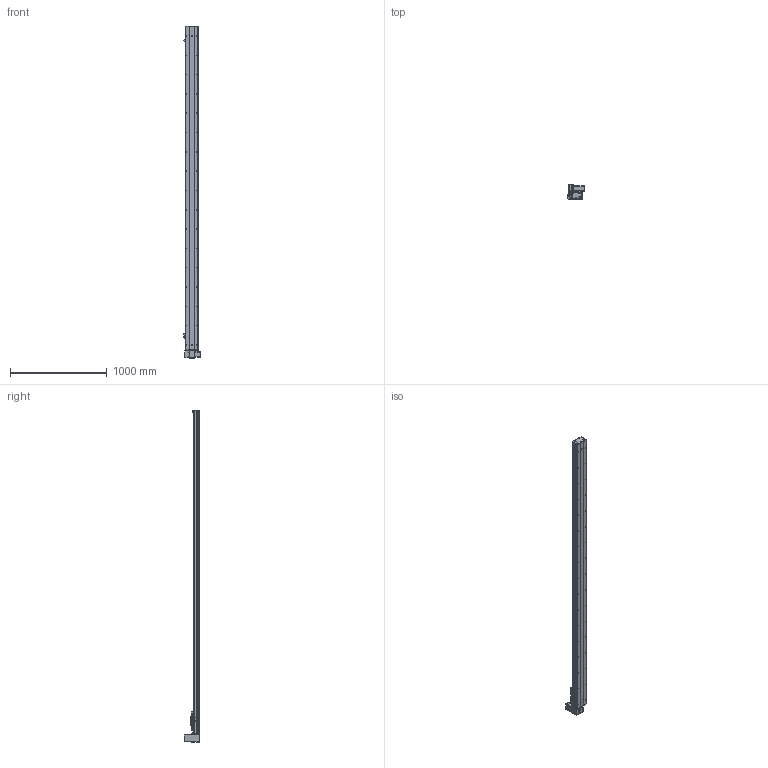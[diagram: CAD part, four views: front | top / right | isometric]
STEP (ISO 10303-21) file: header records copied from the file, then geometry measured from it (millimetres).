
FILE_DESCRIPTION (( 'STEP AP203' ), '1' );
FILE_NAME ('Y135CB-D90-S3050-UR-P400W.STEP', '2020-02-18T06:51:08', ( '微软用户' ), ( '微软中国' ), 'SwSTEP 2.0', 'SolidWorks 2017', '' );
FILE_SCHEMA (( 'CONFIG_CONTROL_DESIGN' ));
Length unit declared in the file: millimetre
Products named in the file (18): 135CB--詩湍-CE; 135CB---遴掛极.-; Y100-135俋离換覜ん--; 35CB---喘謫眊楊擘啣; Y135C-陔俋离換覜結え-; 0B-埴倛裔啣; 5C--俋欶; 0B-源倛裔啣; C-雄赽釱--; 0B-萇儂楊擘啣; Y10B--々湍喘謫眊--666; san松下电机400不带刹车----; Y10B-耜蚾蟀諉啣----; 5CB --掛极耜裔啣-; 00B-俋欶BM--; C-詩湍揤踡え-陔; Y135CB-耜裔; Y135CB-D90-S3050-UR-P400W
Assembly tree (21 placements, depth 2):
  Y135CB-D90-S3050-UR-P400W
    Y135CB-耜裔
    135CB---遴掛极.-
    35CB---喘謫眊楊擘啣
    0B-埴倛裔啣
    0B-源倛裔啣
    0B-萇儂楊擘啣
    san松下电机400不带刹车----
    5CB --掛极耜裔啣-  x2
    C-詩湍揤踡え-陔  x2
    135CB--詩湍-CE
    Y100-135俋离換覜ん--  x3
    Y135C-陔俋离換覜結え-
    5C--俋欶
    C-雄赽釱--
    Y10B--々湍喘謫眊--666
    Y10B-耜蚾蟀諉啣----
    00B-俋欶BM--
Bounding box: 167.5 x 158.7 x 3438 mm (x, y, z)
Volume: 9710177.7 mm3; surface area: 3853364.7 mm2
Topology: 21 solids, 21 shells, 985 faces, 2707 edges, 1794 vertices
Faces by surface type: cylinder 513, plane 456, cone 16
Entity records: 31369 total; most frequent: CARTESIAN_POINT 5252, DIRECTION 5215, ORIENTED_EDGE 4890, EDGE_CURVE 2445, AXIS2_PLACEMENT_3D 1917, VERTEX_POINT 1622, LINE 1381, VECTOR 1381
